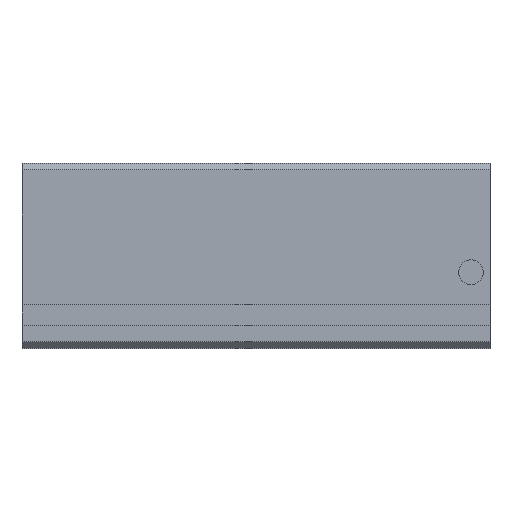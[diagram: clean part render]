
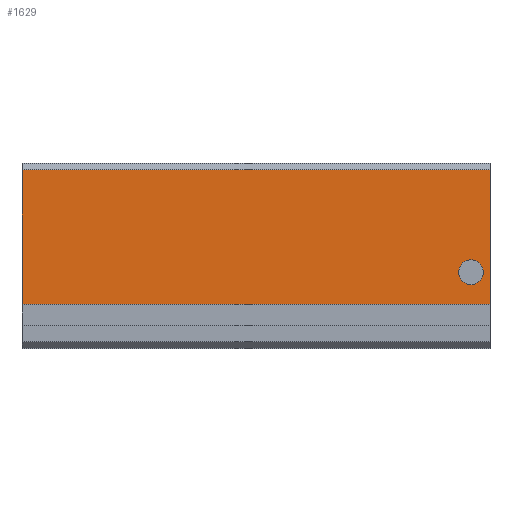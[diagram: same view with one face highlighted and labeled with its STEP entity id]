
A CAD part, top view. The second image highlights one B-rep face of the part: STEP entity #1629.
In plain terms, the highlighted planar face has unit normal (0, 0, 1).
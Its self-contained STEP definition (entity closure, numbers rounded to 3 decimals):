
#38 = EDGE_LOOP ( 'NONE', ( #278, #487, #273, #1085 ) ) ;
#66 = DIRECTION ( 'NONE',  ( -1., 0., 0. ) ) ;
#75 = FACE_BOUND ( 'NONE', #675, .T. ) ;
#102 = AXIS2_PLACEMENT_3D ( 'NONE', #186, #2326, #1260 ) ;
#186 = CARTESIAN_POINT ( 'NONE',  ( 70., 0., 0. ) ) ;
#273 = ORIENTED_EDGE ( 'NONE', *, *, #1165, .T. ) ;
#278 = ORIENTED_EDGE ( 'NONE', *, *, #1918, .F. ) ;
#281 = VECTOR ( 'NONE', #1955, 1000. ) ;
#295 = EDGE_CURVE ( 'NONE', #2099, #1659, #662, .T. ) ;
#303 = FACE_OUTER_BOUND ( 'NONE', #38, .T. ) ;
#487 = ORIENTED_EDGE ( 'NONE', *, *, #681, .T. ) ;
#662 = LINE ( 'NONE', #671, #281 ) ;
#663 = CARTESIAN_POINT ( 'NONE',  ( 70., 0., 0. ) ) ;
#671 = CARTESIAN_POINT ( 'NONE',  ( 0., 6.6, 0. ) ) ;
#675 = EDGE_LOOP ( 'NONE', ( #2036, #1409 ) ) ;
#681 = EDGE_CURVE ( 'NONE', #836, #1561, #1095, .T. ) ;
#709 = LINE ( 'NONE', #747, #2148 ) ;
#717 = CARTESIAN_POINT ( 'NONE',  ( 0., 26.7, 0. ) ) ;
#719 = DIRECTION ( 'NONE',  ( 0., -1., 0. ) ) ;
#747 = CARTESIAN_POINT ( 'NONE',  ( 0., 0., 0. ) ) ;
#764 = EDGE_CURVE ( 'NONE', #1189, #1185, #1966, .T. ) ;
#779 = CARTESIAN_POINT ( 'NONE',  ( 67.15, 11.392, 0. ) ) ;
#836 = VERTEX_POINT ( 'NONE', #1591 ) ;
#888 = PLANE ( 'NONE',  #102 ) ;
#957 = CARTESIAN_POINT ( 'NONE',  ( 69., 11.392, 0. ) ) ;
#994 = VECTOR ( 'NONE', #1198, 1000. ) ;
#996 = DIRECTION ( 'NONE',  ( -1., 0., 0. ) ) ;
#1012 = DIRECTION ( 'NONE',  ( -1., 0., 0. ) ) ;
#1015 = AXIS2_PLACEMENT_3D ( 'NONE', #779, #1510, #66 ) ;
#1040 = CARTESIAN_POINT ( 'NONE',  ( 0., 6.6, 0. ) ) ;
#1085 = ORIENTED_EDGE ( 'NONE', *, *, #295, .T. ) ;
#1095 = LINE ( 'NONE', #2251, #2026 ) ;
#1165 = EDGE_CURVE ( 'NONE', #1561, #2099, #709, .T. ) ;
#1182 = EDGE_CURVE ( 'NONE', #1185, #1189, #1318, .T. ) ;
#1185 = VERTEX_POINT ( 'NONE', #957 ) ;
#1189 = VERTEX_POINT ( 'NONE', #1683 ) ;
#1196 = DIRECTION ( 'NONE',  ( 0., 0., 1. ) ) ;
#1198 = DIRECTION ( 'NONE',  ( 0., -1., 0. ) ) ;
#1220 = CARTESIAN_POINT ( 'NONE',  ( 67.15, 11.392, 0. ) ) ;
#1260 = DIRECTION ( 'NONE',  ( -1., 0., 0. ) ) ;
#1318 = CIRCLE ( 'NONE', #1015, 1.85 ) ;
#1377 = AXIS2_PLACEMENT_3D ( 'NONE', #1220, #1196, #1012 ) ;
#1409 = ORIENTED_EDGE ( 'NONE', *, *, #1182, .F. ) ;
#1510 = DIRECTION ( 'NONE',  ( 0., 0., 1. ) ) ;
#1561 = VERTEX_POINT ( 'NONE', #717 ) ;
#1591 = CARTESIAN_POINT ( 'NONE',  ( 70., 26.7, 0. ) ) ;
#1629 = ADVANCED_FACE ( 'NONE', ( #75, #303 ), #888, .F. ) ;
#1659 = VERTEX_POINT ( 'NONE', #2013 ) ;
#1683 = CARTESIAN_POINT ( 'NONE',  ( 65.3, 11.392, 0. ) ) ;
#1918 = EDGE_CURVE ( 'NONE', #836, #1659, #2091, .T. ) ;
#1955 = DIRECTION ( 'NONE',  ( 1., 0., 0. ) ) ;
#1966 = CIRCLE ( 'NONE', #1377, 1.85 ) ;
#2013 = CARTESIAN_POINT ( 'NONE',  ( 70., 6.6, 0. ) ) ;
#2026 = VECTOR ( 'NONE', #996, 1000. ) ;
#2036 = ORIENTED_EDGE ( 'NONE', *, *, #764, .F. ) ;
#2091 = LINE ( 'NONE', #663, #994 ) ;
#2099 = VERTEX_POINT ( 'NONE', #1040 ) ;
#2148 = VECTOR ( 'NONE', #719, 1000. ) ;
#2251 = CARTESIAN_POINT ( 'NONE',  ( 70., 26.7, 0. ) ) ;
#2326 = DIRECTION ( 'NONE',  ( 0., 0., -1. ) ) ;
